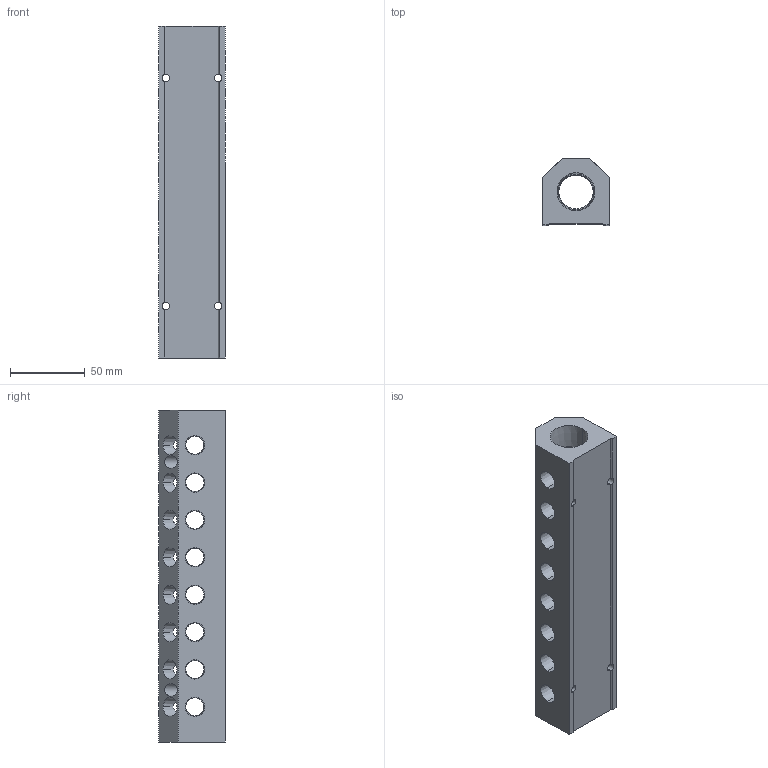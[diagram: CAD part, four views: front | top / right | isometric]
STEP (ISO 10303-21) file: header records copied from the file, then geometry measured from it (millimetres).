
FILE_DESCRIPTION (( 'STEP AP214' ), '1' );
FILE_NAME ('ALM8ABCDE-N4N12-222B.step', '2022-02-06T14:10:38', ( '' ), ( '' ), 'SwSTEP 2.0', 'SolidWorks 2020', '' );
FILE_SCHEMA (( 'AUTOMOTIVE_DESIGN' ));
Length unit declared in the file: millimetre
Products named in the file (1): ALM8ABCDE-N4N12-222B
Bounding box: 44.5 x 44.5 x 222 mm (x, y, z)
Volume: 240700.1 mm3; surface area: 64925.2 mm2
Topology: 1 solids, 1 shells, 447 faces, 1333 edges, 886 vertices
Faces by surface type: plane 239, cone 94, bspline 78, cylinder 36
Entity records: 23783 total; most frequent: CARTESIAN_POINT 11583, ORIENTED_EDGE 2666, DIRECTION 1789, EDGE_CURVE 1333, VERTEX_POINT 886, LINE 777, VECTOR 777, EDGE_LOOP 535
